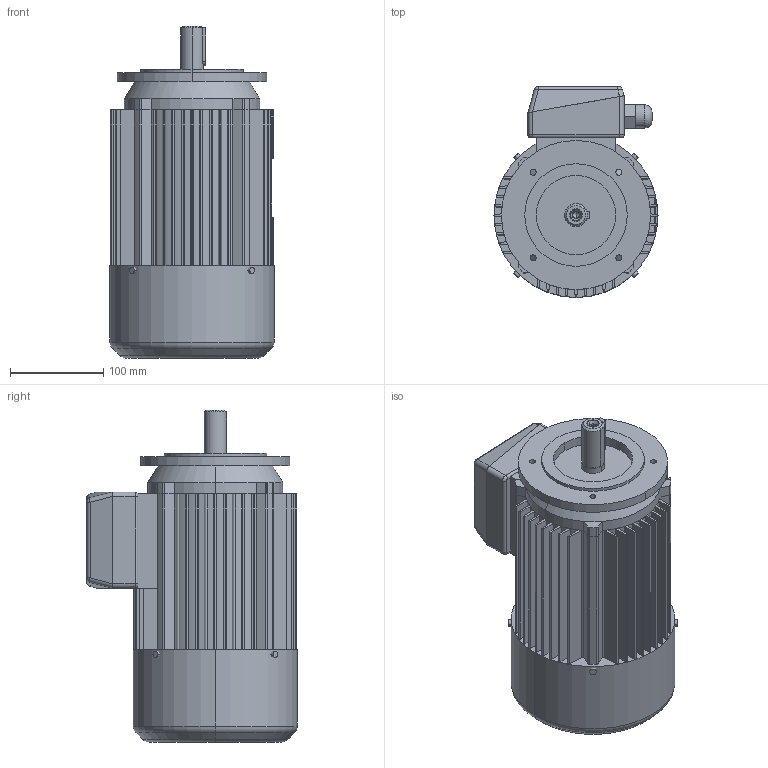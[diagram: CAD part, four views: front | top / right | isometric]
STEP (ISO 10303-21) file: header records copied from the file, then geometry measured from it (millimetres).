
FILE_DESCRIPTION (( 'STEP AP203' ), '1' );
FILE_NAME ('2SIEK90L4,6-B14-C1.STEP', '2013-01-07T12:50:24', ( 'INDUKTA' ), ( 'CANTONI MOTOR' ), 'SwSTEP 2.0', 'SolidWorks 2003064', '' );
FILE_SCHEMA (( 'CONFIG_CONTROL_DESIGN' ));
Length unit declared in the file: millimetre
Products named in the file (1): 2SIEK90L4,6-B14-C1
Bounding box: 176 x 226 x 356 mm (x, y, z)
Volume: 6798747.6 mm3; surface area: 507936 mm2
Topology: 11 solids, 11 shells, 376 faces, 999 edges, 640 vertices
Faces by surface type: cylinder 178, plane 170, cone 14, torus 10, sphere 4
Entity records: 11802 total; most frequent: DIRECTION 2146, CARTESIAN_POINT 2071, ORIENTED_EDGE 1986, EDGE_CURVE 993, AXIS2_PLACEMENT_3D 787, VERTEX_POINT 640, LINE 572, VECTOR 572
